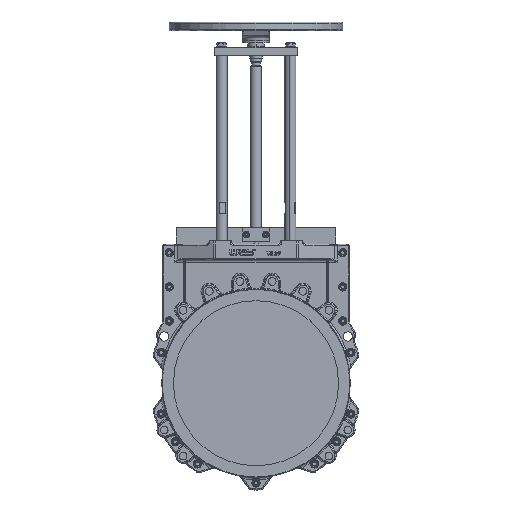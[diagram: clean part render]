
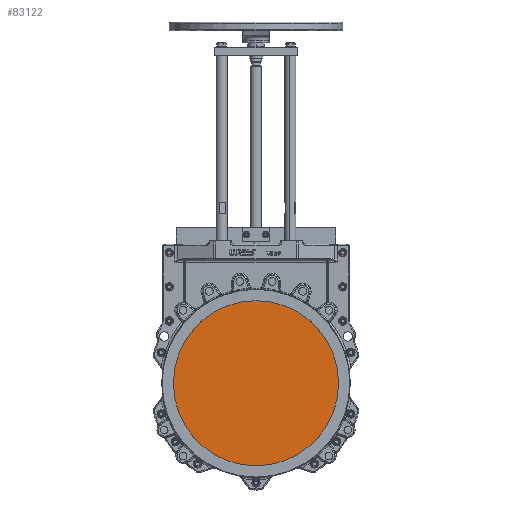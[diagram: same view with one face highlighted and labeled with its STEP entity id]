
A CAD part, top view. The second image highlights one B-rep face of the part: STEP entity #83122.
In plain terms, the highlighted planar face has unit normal (0, 0, 1).
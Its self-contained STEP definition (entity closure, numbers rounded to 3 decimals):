
#16874 = AXIS2_PLACEMENT_3D ( 'NONE', #36502, #118021, #48204 ) ;
#19293 = CARTESIAN_POINT ( 'NONE',  ( 300., 0., 0. ) ) ;
#28311 = CIRCLE ( 'NONE', #16874, 300. ) ;
#28718 = AXIS2_PLACEMENT_3D ( 'NONE', #121347, #51591, #133097 ) ;
#36502 = CARTESIAN_POINT ( 'NONE',  ( 0., 0., 0. ) ) ;
#43224 = EDGE_LOOP ( 'NONE', ( #129974, #130081 ) ) ;
#47646 = FACE_OUTER_BOUND ( 'NONE', #43224, .T. ) ;
#48204 = DIRECTION ( 'NONE',  ( -1., 0., 0. ) ) ;
#51086 = PLANE ( 'NONE',  #28718 ) ;
#51591 = DIRECTION ( 'NONE',  ( 0., 0., -1. ) ) ;
#58802 = VERTEX_POINT ( 'NONE', #91120 ) ;
#59896 = CARTESIAN_POINT ( 'NONE',  ( 0., 0., 0. ) ) ;
#68408 = AXIS2_PLACEMENT_3D ( 'NONE', #59896, #141394, #71536 ) ;
#71536 = DIRECTION ( 'NONE',  ( -1., 0., 0. ) ) ;
#83122 = ADVANCED_FACE ( 'NONE', ( #47646 ), #51086, .F. ) ;
#91120 = CARTESIAN_POINT ( 'NONE',  ( -300., 0., 0. ) ) ;
#109057 = EDGE_CURVE ( 'NONE', #138561, #58802, #28311, .T. ) ;
#112939 = EDGE_CURVE ( 'NONE', #58802, #138561, #131344, .T. ) ;
#118021 = DIRECTION ( 'NONE',  ( 0., 0., -1. ) ) ;
#121347 = CARTESIAN_POINT ( 'NONE',  ( 0.839, -823.489, 0. ) ) ;
#129974 = ORIENTED_EDGE ( 'NONE', *, *, #109057, .F. ) ;
#130081 = ORIENTED_EDGE ( 'NONE', *, *, #112939, .F. ) ;
#131344 = CIRCLE ( 'NONE', #68408, 300. ) ;
#133097 = DIRECTION ( 'NONE',  ( -1., 0., 0. ) ) ;
#138561 = VERTEX_POINT ( 'NONE', #19293 ) ;
#141394 = DIRECTION ( 'NONE',  ( 0., 0., -1. ) ) ;
